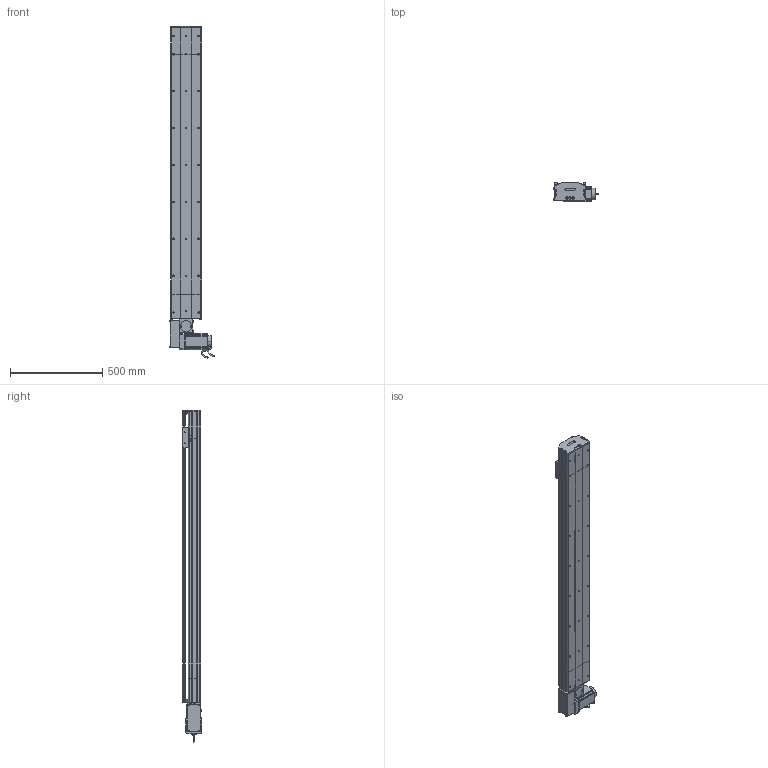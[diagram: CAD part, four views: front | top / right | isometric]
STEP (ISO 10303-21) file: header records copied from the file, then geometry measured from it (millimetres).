
FILE_DESCRIPTION (( 'STEP AP214' ), '1' );
FILE_NAME ('D17 TBN RH S1300.STEP', '2010-06-30T10:51:16', ( 'Christophe Gaillard' ), ( 'SGA' ), 'SwSTEP 2.0', 'SolidWorks 2010', '' );
FILE_SCHEMA (( 'AUTOMOTIVE_DESIGN' ));
Length unit declared in the file: millimetre
Products named in the file (40): corp D17B 1300_Default; course 1300 D17B_Default; codeur 90BLDC125-640; Couroie+ rail D17 Course 1300 ; D17 TBN RH S1300; poulie tail_Default; couroie head D17_Default; cache D17_Default; corps 90BLDC125A-640; couvercle D17B course L1300_Default; couvercle D17B head_Default; plaque de  bout head D17B RH_Default; Moteur motionking 90BLDC125A-640; Arbre+rail head D17B; Conecteur2_Default; Head RH D17B_Default; avant 90BLDC125A-640; corpl head D17 _Default; vis M5 L5_Default; poulie head_Default; plaque de  bout tail D17B_Default; Renvoi RH_Default; tete d''axe poulie D17B; Conecteur_Default; Couroie tail D17B_Default; Rail D17B; corp tail D17B+100_Default; vis M5 L16_Default; Tail D17B+100_Default; Vis M5 L16-2_Default; vis M5 L70_Default; cache arbre D17_Default; Plaque racord D17_Default; chariot D17 TBN; guide D17; couvercle D17B_Default; Chariot D17 TBN; vis M5 L12_Default; vis M5 L25_Default; vis M5 L8 90°_Default
Assembly tree (66 placements, depth 4):
  D17 TBN RH S1300
    chariot D17 TBN
      guide D17  x2
      Chariot D17 TBN
    course 1300 D17B_Default
      couvercle D17B course L1300_Default
      corp D17B 1300_Default
      Couroie+ rail D17 Course 1300 
    Tail D17B+100_Default
      vis M5 L12_Default  x4
      poulie tail_Default
      tete d''axe poulie D17B
      corp tail D17B+100_Default
      Couroie tail D17B_Default
      vis M5 L25_Default  x2
      vis M5 L8 90°_Default  x2
      plaque de  bout tail D17B_Default
      couvercle D17B_Default
      Rail D17B
    Head RH D17B_Default
      vis M5 L12_Default  x8
      vis M5 L16_Default  x2
      couvercle D17B head_Default
      Renvoi RH_Default
      Plaque racord D17_Default
      vis M5 L25_Default  x2
      cache D17_Default  x2
      vis M5 L70_Default  x4
      Moteur motionking 90BLDC125A-640
        corps 90BLDC125A-640
        Conecteur_Default
        avant 90BLDC125A-640
        Conecteur2_Default
        codeur 90BLDC125-640
      corpl head D17 _Default
      Arbre+rail head D17B
      Vis M5 L16-2_Default  x4
      poulie head_Default
      plaque de  bout head D17B RH_Default
      vis M5 L5_Default  x4
      couroie head D17_Default
      cache arbre D17_Default
Bounding box: 245.2 x 105.65 x 1800.95 mm (x, y, z)
Volume: 10522623.3 mm3; surface area: 2980210 mm2
Topology: 89 solids, 89 shells, 2559 faces, 6491 edges, 4186 vertices
Faces by surface type: plane 1537, cylinder 725, bspline 136, cone 80, torus 77, sphere 4
Entity records: 82581 total; most frequent: CARTESIAN_POINT 24705, ORIENTED_EDGE 10154, DIRECTION 9598, EDGE_CURVE 5077, LINE 3412, VECTOR 3412, VERTEX_POINT 3330, AXIS2_PLACEMENT_3D 3093
